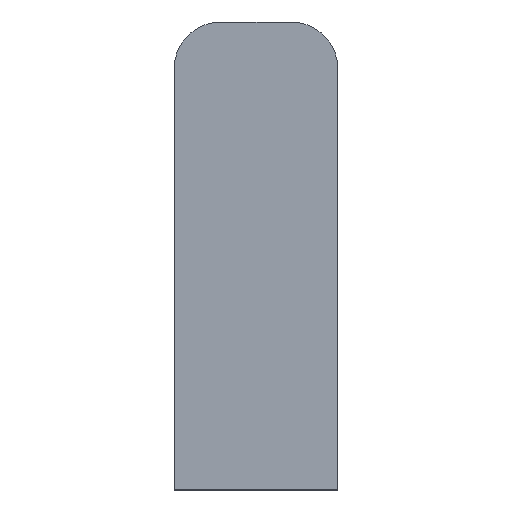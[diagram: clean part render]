
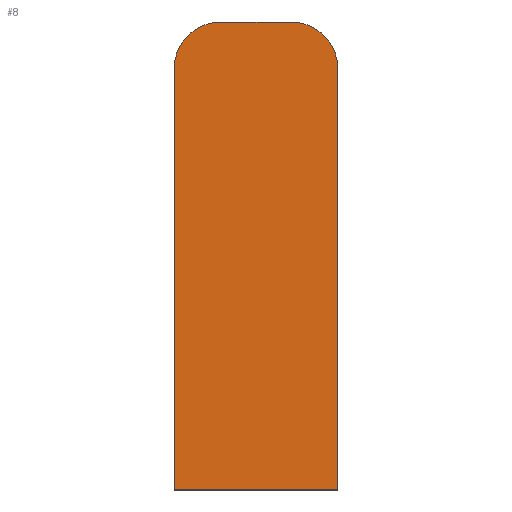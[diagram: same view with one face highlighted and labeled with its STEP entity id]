
A CAD part, front view. The second image highlights one B-rep face of the part: STEP entity #8.
In plain terms, the highlighted planar face has unit normal (0, -1, 0).
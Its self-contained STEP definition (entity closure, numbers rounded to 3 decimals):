
#8 = ADVANCED_FACE ( 'NONE', ( #64 ), #262, .F. ) ;
#20 = EDGE_CURVE ( 'NONE', #181, #172, #79, .T. ) ;
#21 = AXIS2_PLACEMENT_3D ( 'NONE', #190, #188, #191 ) ;
#25 = EDGE_CURVE ( 'NONE', #175, #170, #102, .T. ) ;
#30 = EDGE_CURVE ( 'NONE', #173, #175, #120, .T. ) ;
#32 = AXIS2_PLACEMENT_3D ( 'NONE', #205, #206, #207 ) ;
#34 = EDGE_CURVE ( 'NONE', #170, #181, #124, .T. ) ;
#39 = AXIS2_PLACEMENT_3D ( 'NONE', #214, #226, #227 ) ;
#43 = EDGE_CURVE ( 'NONE', #184, #173, #122, .T. ) ;
#44 = EDGE_CURVE ( 'NONE', #172, #184, #115, .T. ) ;
#55 = ORIENTED_EDGE ( 'NONE', *, *, #20, .T. ) ;
#62 = ORIENTED_EDGE ( 'NONE', *, *, #43, .T. ) ;
#63 = ORIENTED_EDGE ( 'NONE', *, *, #44, .T. ) ;
#64 = FACE_OUTER_BOUND ( 'NONE', #71, .T. ) ;
#67 = ORIENTED_EDGE ( 'NONE', *, *, #30, .T. ) ;
#71 = EDGE_LOOP ( 'NONE', ( #75, #55, #63, #62, #67, #88 ) ) ;
#75 = ORIENTED_EDGE ( 'NONE', *, *, #34, .T. ) ;
#79 = CIRCLE ( 'NONE', #32, 3. ) ;
#88 = ORIENTED_EDGE ( 'NONE', *, *, #25, .T. ) ;
#101 = VECTOR ( 'NONE', #219, 1000. ) ;
#102 = LINE ( 'NONE', #210, #146 ) ;
#115 = LINE ( 'NONE', #228, #128 ) ;
#120 = LINE ( 'NONE', #218, #101 ) ;
#122 = CIRCLE ( 'NONE', #39, 3. ) ;
#124 = LINE ( 'NONE', #222, #125 ) ;
#125 = VECTOR ( 'NONE', #223, 1000. ) ;
#128 = VECTOR ( 'NONE', #229, 1000. ) ;
#146 = VECTOR ( 'NONE', #215, 1000. ) ;
#170 = VERTEX_POINT ( 'NONE', #233 ) ;
#172 = VERTEX_POINT ( 'NONE', #230 ) ;
#173 = VERTEX_POINT ( 'NONE', #242 ) ;
#175 = VERTEX_POINT ( 'NONE', #243 ) ;
#181 = VERTEX_POINT ( 'NONE', #246 ) ;
#184 = VERTEX_POINT ( 'NONE', #247 ) ;
#188 = DIRECTION ( 'NONE',  ( 0., 1., 0. ) ) ;
#190 = CARTESIAN_POINT ( 'NONE',  ( 0., 0., -1.5 ) ) ;
#191 = DIRECTION ( 'NONE',  ( -1., 0., 0. ) ) ;
#205 = CARTESIAN_POINT ( 'NONE',  ( 2.25, 0., 10.5 ) ) ;
#206 = DIRECTION ( 'NONE',  ( 0., -1., 0. ) ) ;
#207 = DIRECTION ( 'NONE',  ( -1., 0., 0. ) ) ;
#210 = CARTESIAN_POINT ( 'NONE',  ( 5.25, 0., -16.5 ) ) ;
#214 = CARTESIAN_POINT ( 'NONE',  ( -2.25, 0., 10.5 ) ) ;
#215 = DIRECTION ( 'NONE',  ( 1., 0., 0. ) ) ;
#218 = CARTESIAN_POINT ( 'NONE',  ( -5.25, 0., -16.5 ) ) ;
#219 = DIRECTION ( 'NONE',  ( 0., 0., -1. ) ) ;
#222 = CARTESIAN_POINT ( 'NONE',  ( 5.25, 0., -16.5 ) ) ;
#223 = DIRECTION ( 'NONE',  ( 0., 0., 1. ) ) ;
#226 = DIRECTION ( 'NONE',  ( 0., -1., 0. ) ) ;
#227 = DIRECTION ( 'NONE',  ( -1., 0., 0. ) ) ;
#228 = CARTESIAN_POINT ( 'NONE',  ( 2.25, 0., 13.5 ) ) ;
#229 = DIRECTION ( 'NONE',  ( -1., 0., 0. ) ) ;
#230 = CARTESIAN_POINT ( 'NONE',  ( 2.25, 0., 13.5 ) ) ;
#233 = CARTESIAN_POINT ( 'NONE',  ( 5.25, 0., -16.5 ) ) ;
#242 = CARTESIAN_POINT ( 'NONE',  ( -5.25, 0., 10.5 ) ) ;
#243 = CARTESIAN_POINT ( 'NONE',  ( -5.25, 0., -16.5 ) ) ;
#246 = CARTESIAN_POINT ( 'NONE',  ( 5.25, 0., 10.5 ) ) ;
#247 = CARTESIAN_POINT ( 'NONE',  ( -2.25, 0., 13.5 ) ) ;
#262 = PLANE ( 'NONE',  #21 ) ;
